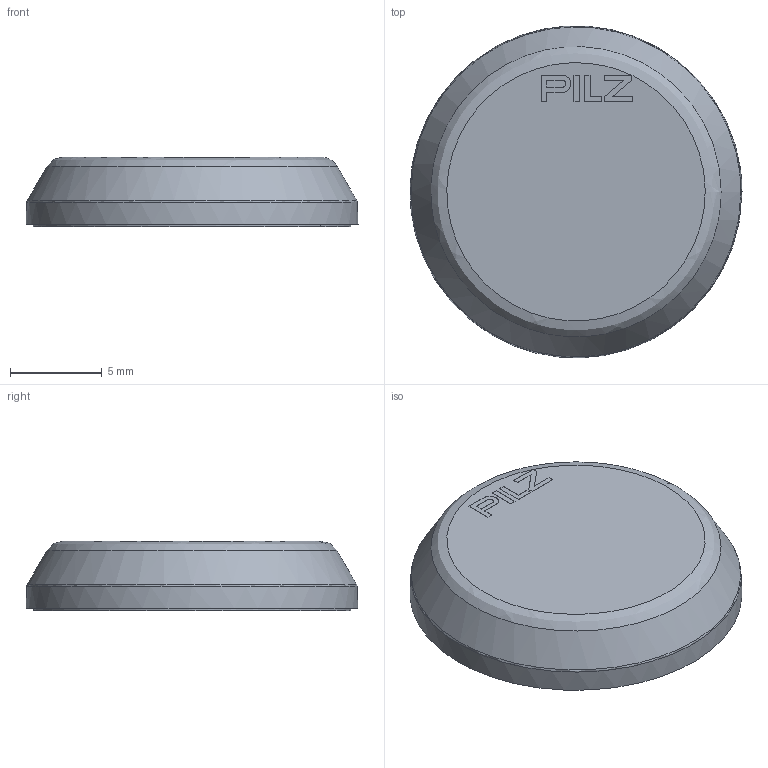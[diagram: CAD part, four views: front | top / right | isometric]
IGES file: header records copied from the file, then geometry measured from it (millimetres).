
Global section: file name: 2027931_A_PSEN_cs_glue_actuator; native system: Autodesk Inventor 2020; preprocessor: unknown; author: prim; date: 20200318.120748; units: millimetre
Bounding box: 18.09 x 18.06 x 3.81 mm (x, y, z)
Volume: 846.4 mm3; surface area: 717.5 mm2
Topology: 1 solids, 1 shells, 69 faces, 171 edges, 111 vertices
Faces by surface type: bspline 69
